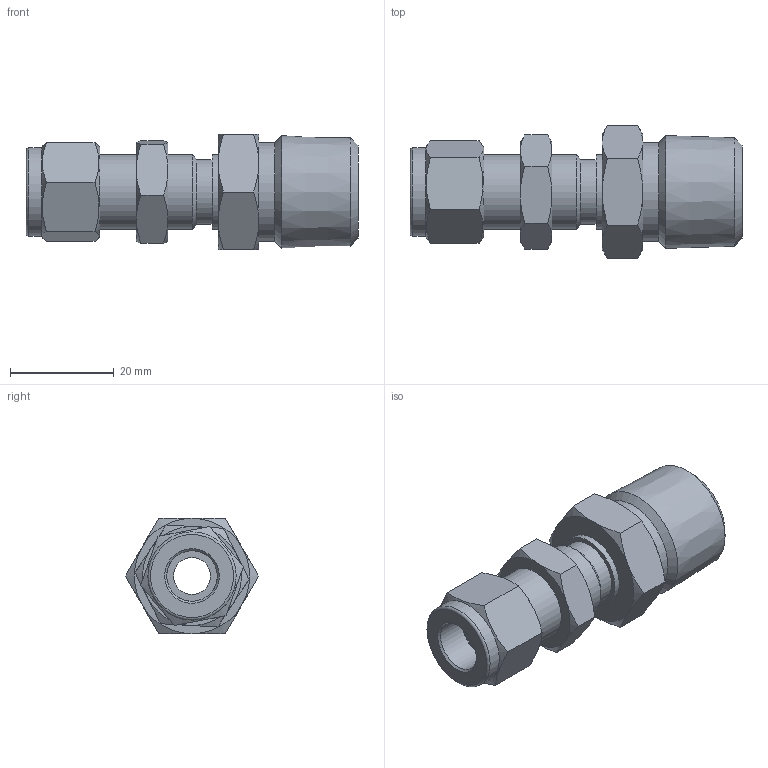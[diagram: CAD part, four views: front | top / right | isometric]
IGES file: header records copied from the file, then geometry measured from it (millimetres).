
Global section: file name: No Iges File Name specified; native system: Autodesk Inventor 2012; preprocessor: AutoDesk Inventor Iges Exporter R2012; author: 硅己绕,, ; organization: 11; date: 20150603.092544; units: millimetre
Bounding box: 63.91 x 25.63 x 22.2 mm (x, y, z)
Volume: 14493 mm3; surface area: 7932.3 mm2
Topology: 3 solids, 3 shells, 76 faces, 155 edges, 91 vertices
Faces by surface type: cone 31, plane 30, revolution 8, cylinder 6, torus 1
Full cylindrical faces by diameter (mm): 12.5 x1, 12.55 x1, 14.28 x1, 14.3 x1, 17 x1, 18.996 x1
